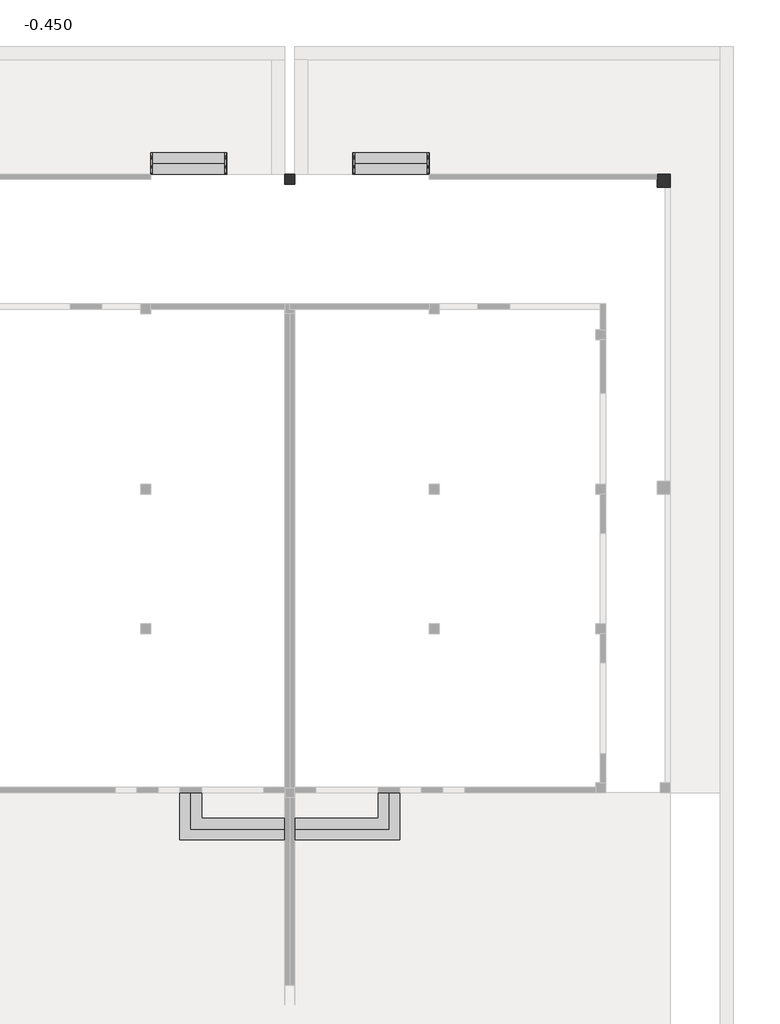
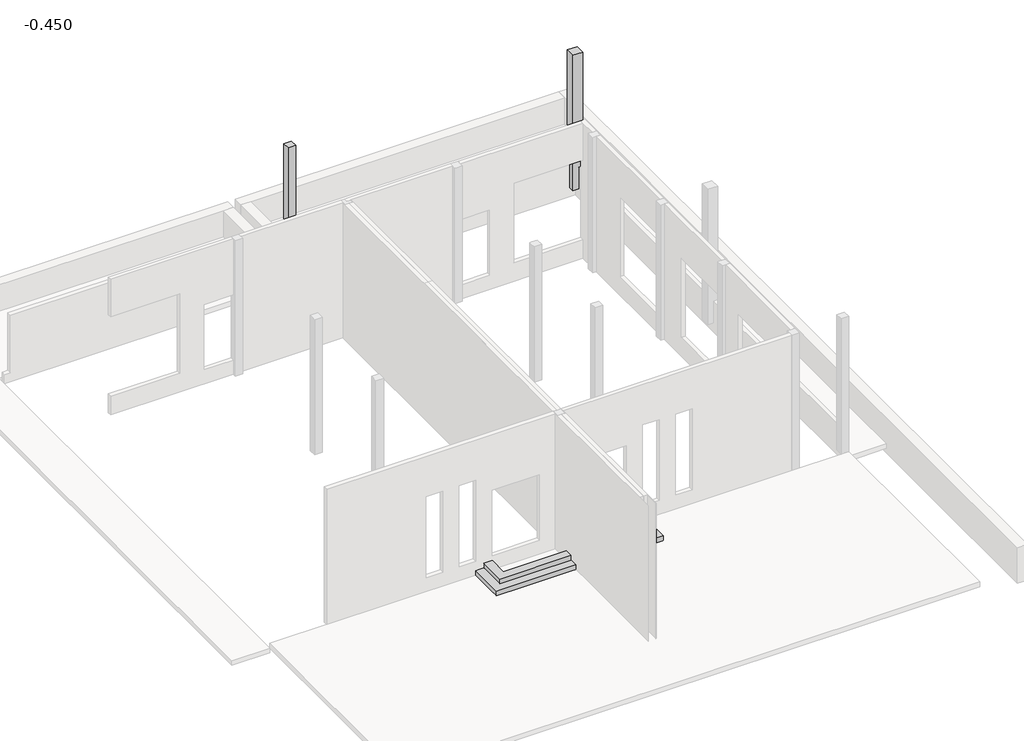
# One storey, part 2 of 2: 4 railings, 2 columns, 2 proxies, 2 stair flights.
"""IFC4 building model written with IfcOpenShell, lengths in millimetres."""

from ifc_helpers import new_model, si_unit, frame, origin, place, context, project, spatial, circle_curve, ellipse_curve, faceted_brep, transform, mapped, element, save
from ifc_brep_helpers import plane_surface, cylinder_surface, advanced_brep
from components import generic_models_7f620453, generic_models_ae96d947

model = new_model("IFC4")

# Units and contexts
model_context = context("Model", 3, world=origin())
ifc_project = project(units=[si_unit("LENGTHUNIT", "METRE", prefix="MILLI")], contexts=[model_context])

# Site, building, storey
site = spatial("IfcSite", under=ifc_project)
building = spatial("IfcBuilding", under=site)
storey = spatial("IfcBuildingStorey", under=building, Name="-0.450", Elevation=-450.0)

# Proxies
placement = place(None, origin())
generic_models_shape = generic_models_7f620453(model_context)
element("IfcBuildingElementProxy", 1, Name="台阶 : 台阶", ObjectType="台阶 : 台阶", at=placement, inside=storey, context=model_context, shape_type="MappedRepresentation", body=[
    mapped(generic_models_shape, transform((0.0, 0.0, 0.0), x_axis=(1.0, 0.0, 0.0), y_axis=(0.0, 1.0, 0.0), z_axis=(0.0, 0.0, 1.0))),
])
generic_models_2_shape = generic_models_ae96d947(model_context)
element("IfcBuildingElementProxy", 2, Name="台阶1 : 台阶", ObjectType="台阶1 : 台阶", at=placement, inside=storey, context=model_context, shape_type="MappedRepresentation", body=[
    mapped(generic_models_2_shape, transform((0.0, 0.0, 0.0), x_axis=(1.0, 0.0, 0.0), y_axis=(0.0, 1.0, 0.0), z_axis=(0.0, 0.0, 1.0))),
])

# Columns
element("IfcColumn", 3, ObjectType="混凝土 - 矩形 - 柱 : Z1", at=placement, inside=storey, context=model_context, shape_type="Brep", body=[
    faceted_brep([(9615.9706096, 16288.7732284, -450.0), (9795.9706096, 16288.7732284, -450.0), (9915.9706096, 16288.7732284, -450.0), (9915.9706096, 15988.7732284, -450.0), (9795.9706096, 15988.7732284, -450.0), (9615.9706096, 15988.7732284, -450.0), (9615.9706096, 16168.7732284, -450.0), (9615.9706096, 16288.7732284, 3900.0), (9615.9706096, 16288.7732284, 1400.0), (9615.9706096, 15988.7732284, 3900.0), (9915.9706096, 15988.7732284, 250.0), (9915.9706096, 15988.7732284, 3900.0), (9915.9706096, 16288.7732284, 3900.0)], [[[0, 1, 2, 3, 4, 5, 6]], [[7, 8, 0, 6, 5, 9]], [[9, 5, 4, 3, 10, 11]], [[11, 10, 3, 2, 12]], [[12, 2, 1, 0, 8, 7]], [[7, 9, 11, 12]]]),
])
element("IfcColumn", 4, ObjectType="混凝土 - 矩形 - 柱 : Z2", at=placement, inside=storey, context=model_context, shape_type="Brep", body=[
    faceted_brep([(1230.9706096, 16288.7732284, -450.0), (1230.9706096, 16058.7732284, -450.0), (1000.9706096, 16058.7732284, -450.0), (1000.9706096, 16288.7732284, -450.0), (1230.9706096, 16288.7732284, 3900.0), (1230.9706096, 16058.7732284, 3900.0), (1230.9706096, 16058.7732284, 0.0), (1230.9706096, 16288.7732284, 0.0), (1230.9706096, 16288.7732284, 3150.0), (1110.9706096, 16058.7732284, 3900.0), (1000.9706096, 16058.7732284, 3900.0), (1000.9706096, 16288.7732284, 3900.0)], [[[0, 1, 2, 3]], [[4, 5, 6, 1, 0, 7, 8]], [[5, 9, 10, 2, 1, 6]], [[10, 11, 3, 2]], [[11, 4, 8, 7, 0, 3]], [[4, 11, 10, 9, 5]]]),
])

# Railings
element("IfcRailing", 5, ObjectType="900mm 圆管", at=placement, inside=storey, context=model_context, shape_type="AdvancedBrep", body=[
    advanced_brep(
    [(-2098.6293904, 16783.7732284, 648.0927519), (-2058.6293904, 16783.7732284, 648.0927519), (-2098.6293904, 16283.7732284, 1098.0927519), (-2058.6293904, 16283.7732284, 1098.0927519)],
    [
        (0, 1, ellipse_curve(frame((-2078.6293904, 16783.7732284, 648.0927519), z_axis=(0.0, 1.0, 0.0), x_axis=(0.0, 0.0, -1.0)), 26.9072481, 20.0)),
        (1, 0, ellipse_curve(frame((-2078.6293904, 16783.7732284, 648.0927519), z_axis=(0.0, 1.0, 0.0), x_axis=(0.0, 0.0, -1.0)), 26.9072481, 20.0)),
        (2, 3, ellipse_curve(frame((-2078.6293904, 16283.7732284, 1098.0927519), z_axis=(0.0, -1.0, 0.0), x_axis=(0.0, 0.0, -1.0)), 26.9072481, 20.0)),
        (3, 2, ellipse_curve(frame((-2078.6293904, 16283.7732284, 1098.0927519), z_axis=(0.0, -1.0, 0.0), x_axis=(0.0, 0.0, -1.0)), 26.9072481, 20.0)),
        (0, 2),
        (3, 1),
    ],
    [
        plane_surface(frame((-2078.6293904, 16783.7732284, 675.0), z_axis=(0.0, 1.0, 0.0), x_axis=(0.0, 0.0, -1.0))),
        plane_surface(frame((-2078.6293904, 16283.7732284, 1125.0), z_axis=(0.0, -1.0, 0.0), x_axis=(0.0, 0.0, -1.0))),
        cylinder_surface(frame((-2078.6293904, 16770.3939338, 660.1341171), z_axis=(0.0, 0.7432941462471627, -0.6689647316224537), x_axis=(1.0, 0.0, 0.0)), 20.0),
    ],
    [
        (0, [[1, 2]]),
        (1, [[3, 4]]),
        (2, [[-1, 5, -4, 6]]),
        (2, [[-2, -6, -3, -5]]),
    ],
),
    advanced_brep(
    [(-2063.6293904, 16783.7732284, 454.8195639), (-2093.6293904, 16783.7732284, 454.8195639), (-2063.6293904, 16283.7732284, 904.8195639), (-2093.6293904, 16283.7732284, 904.8195639)],
    [
        (0, 1, ellipse_curve(frame((-2078.6293904, 16783.7732284, 454.8195639), z_axis=(0.0, 1.0, 0.0), x_axis=(0.0, 0.0, -1.0)), 20.1804361, 15.0)),
        (1, 0, ellipse_curve(frame((-2078.6293904, 16783.7732284, 454.8195639), z_axis=(0.0, 1.0, 0.0), x_axis=(0.0, 0.0, -1.0)), 20.1804361, 15.0)),
        (2, 3, ellipse_curve(frame((-2078.6293904, 16283.7732284, 904.8195639), z_axis=(0.0, -1.0, 0.0), x_axis=(0.0, 0.0, -1.0)), 20.1804361, 15.0)),
        (3, 2, ellipse_curve(frame((-2078.6293904, 16283.7732284, 904.8195639), z_axis=(0.0, -1.0, 0.0), x_axis=(0.0, 0.0, -1.0)), 20.1804361, 15.0)),
        (0, 2),
        (3, 1),
    ],
    [
        plane_surface(frame((-2078.6293904, 16783.7732284, 475.0), z_axis=(0.0, 1.0, 0.0), x_axis=(0.0, 0.0, -1.0))),
        plane_surface(frame((-2078.6293904, 16283.7732284, 925.0), z_axis=(0.0, -1.0, 0.0), x_axis=(0.0, 0.0, -1.0))),
        cylinder_surface(frame((-2078.6293904, 16773.7387575, 463.8505878), z_axis=(0.0, 0.7432941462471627, -0.6689647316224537), x_axis=(-1.0, 0.0, 0.0)), 15.0),
    ],
    [
        (0, [[1, 2]]),
        (1, [[3, 4]]),
        (2, [[-1, 5, -4, 6]]),
        (2, [[-2, -6, -3, -5]]),
    ],
),
    advanced_brep(
    [(-2063.6293904, 16783.7732284, 254.8195639), (-2093.6293904, 16783.7732284, 254.8195639), (-2063.6293904, 16283.7732284, 704.8195639), (-2093.6293904, 16283.7732284, 704.8195639)],
    [
        (0, 1, ellipse_curve(frame((-2078.6293904, 16783.7732284, 254.8195639), z_axis=(0.0, 1.0, 0.0), x_axis=(0.0, 0.0, -1.0)), 20.1804361, 15.0)),
        (1, 0, ellipse_curve(frame((-2078.6293904, 16783.7732284, 254.8195639), z_axis=(0.0, 1.0, 0.0), x_axis=(0.0, 0.0, -1.0)), 20.1804361, 15.0)),
        (2, 3, ellipse_curve(frame((-2078.6293904, 16283.7732284, 704.8195639), z_axis=(0.0, -1.0, 0.0), x_axis=(0.0, 0.0, -1.0)), 20.1804361, 15.0)),
        (3, 2, ellipse_curve(frame((-2078.6293904, 16283.7732284, 704.8195639), z_axis=(0.0, -1.0, 0.0), x_axis=(0.0, 0.0, -1.0)), 20.1804361, 15.0)),
        (0, 2),
        (3, 1),
    ],
    [
        plane_surface(frame((-2078.6293904, 16783.7732284, 275.0), z_axis=(0.0, 1.0, 0.0), x_axis=(0.0, 0.0, -1.0))),
        plane_surface(frame((-2078.6293904, 16283.7732284, 725.0), z_axis=(0.0, -1.0, 0.0), x_axis=(0.0, 0.0, -1.0))),
        cylinder_surface(frame((-2078.6293904, 16773.7387575, 263.8505878), z_axis=(0.0, 0.7432941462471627, -0.6689647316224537), x_axis=(-1.0, 0.0, 0.0)), 15.0),
    ],
    [
        (0, [[1, 2]]),
        (1, [[3, 4]]),
        (2, [[-1, 5, -4, 6]]),
        (2, [[-2, -6, -3, -5]]),
    ],
),
    advanced_brep(
    [(-2063.6293904, 16783.7732284, 54.8195639), (-2093.6293904, 16783.7732284, 54.8195639), (-2063.6293904, 16283.7732284, 504.8195639), (-2093.6293904, 16283.7732284, 504.8195639)],
    [
        (0, 1, ellipse_curve(frame((-2078.6293904, 16783.7732284, 54.8195639), z_axis=(0.0, 1.0, 0.0), x_axis=(0.0, 0.0, -1.0)), 20.1804361, 15.0)),
        (1, 0, ellipse_curve(frame((-2078.6293904, 16783.7732284, 54.8195639), z_axis=(0.0, 1.0, 0.0), x_axis=(0.0, 0.0, -1.0)), 20.1804361, 15.0)),
        (2, 3, ellipse_curve(frame((-2078.6293904, 16283.7732284, 504.8195639), z_axis=(0.0, -1.0, 0.0), x_axis=(0.0, 0.0, -1.0)), 20.1804361, 15.0)),
        (3, 2, ellipse_curve(frame((-2078.6293904, 16283.7732284, 504.8195639), z_axis=(0.0, -1.0, 0.0), x_axis=(0.0, 0.0, -1.0)), 20.1804361, 15.0)),
        (0, 2),
        (3, 1),
    ],
    [
        plane_surface(frame((-2078.6293904, 16783.7732284, 75.0), z_axis=(0.0, 1.0, 0.0), x_axis=(0.0, 0.0, -1.0))),
        plane_surface(frame((-2078.6293904, 16283.7732284, 525.0), z_axis=(0.0, -1.0, 0.0), x_axis=(0.0, 0.0, -1.0))),
        cylinder_surface(frame((-2078.6293904, 16773.7387575, 63.8505878), z_axis=(0.0, 0.7432941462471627, -0.6689647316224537), x_axis=(-1.0, 0.0, 0.0)), 15.0),
    ],
    [
        (0, [[1, 2]]),
        (1, [[3, 4]]),
        (2, [[-1, 5, -4, 6]]),
        (2, [[-2, -6, -3, -5]]),
    ],
),
    advanced_brep(
    [(-2063.6293904, 16783.7732284, -145.1804361), (-2093.6293904, 16783.7732284, -145.1804361), (-2063.6293904, 16283.7732284, 304.8195639), (-2093.6293904, 16283.7732284, 304.8195639)],
    [
        (0, 1, ellipse_curve(frame((-2078.6293904, 16783.7732284, -145.1804361), z_axis=(0.0, 1.0, 0.0), x_axis=(0.0, 0.0, -1.0)), 20.1804361, 15.0)),
        (1, 0, ellipse_curve(frame((-2078.6293904, 16783.7732284, -145.1804361), z_axis=(0.0, 1.0, 0.0), x_axis=(0.0, 0.0, -1.0)), 20.1804361, 15.0)),
        (2, 3, ellipse_curve(frame((-2078.6293904, 16283.7732284, 304.8195639), z_axis=(0.0, -1.0, 0.0), x_axis=(0.0, 0.0, -1.0)), 20.1804361, 15.0)),
        (3, 2, ellipse_curve(frame((-2078.6293904, 16283.7732284, 304.8195639), z_axis=(0.0, -1.0, 0.0), x_axis=(0.0, 0.0, -1.0)), 20.1804361, 15.0)),
        (0, 2),
        (3, 1),
    ],
    [
        plane_surface(frame((-2078.6293904, 16783.7732284, -125.0), z_axis=(0.0, 1.0, 0.0), x_axis=(0.0, 0.0, -1.0))),
        plane_surface(frame((-2078.6293904, 16283.7732284, 325.0), z_axis=(0.0, -1.0, 0.0), x_axis=(0.0, 0.0, -1.0))),
        cylinder_surface(frame((-2078.6293904, 16773.7387575, -136.1494122), z_axis=(0.0, 0.7432941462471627, -0.6689647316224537), x_axis=(-1.0, 0.0, 0.0)), 15.0),
    ],
    [
        (0, [[1, 2]]),
        (1, [[3, 4]]),
        (2, [[-1, 5, -4, 6]]),
        (2, [[-2, -6, -3, -5]]),
    ],
),
    advanced_brep(
    [(-2091.1293904, 16296.2732284, 1059.9355038), (-2091.1293904, 16296.2732284, 0.0), (-2066.1293904, 16296.2732284, 0.0), (-2066.1293904, 16296.2732284, 1059.9355038)],
    [
        (0, 1),
        (1, 2, circle_curve(frame((-2078.6293904, 16296.2732284, 0.0), z_axis=(0.0, 0.0, 1.0), x_axis=(1.0, 0.0, 0.0)), 12.5)),
        (2, 3),
        (3, 0, ellipse_curve(frame((-2078.6293904, 16296.2732284, 1059.9355038), z_axis=(0.0, -0.6689647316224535, -0.743294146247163), x_axis=(0.0, -0.7432941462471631, 0.6689647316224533)), 16.8170301, 12.5)),
        (0, 3, ellipse_curve(frame((-2078.6293904, 16296.2732284, 1059.9355038), z_axis=(0.0, -0.6689647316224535, -0.743294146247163), x_axis=(0.0, -0.7432941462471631, 0.6689647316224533)), 16.8170301, 12.5)),
        (2, 1, circle_curve(frame((-2078.6293904, 16296.2732284, 0.0), z_axis=(0.0, 0.0, 1.0), x_axis=(1.0, 0.0, 0.0)), 12.5)),
    ],
    [
        cylinder_surface(frame((-2078.6293904, 16296.2732284, -100.0), z_axis=(0.0, 0.0, 1.0), x_axis=(1.0, 0.0, 0.0)), 12.5),
        plane_surface(frame((-2053.6293904, 16271.2732284, 1082.4355038), z_axis=(0.0, 0.6689647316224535, 0.743294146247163), x_axis=(-1.0, 0.0, 0.0))),
        plane_surface(frame((-2053.6293904, 16321.2732284, 0.0), z_axis=(0.0, 0.0, -1.0), x_axis=(-1.0, 0.0, 0.0))),
    ],
    [
        (0, [[1, 2, 3, 4]]),
        (0, [[-1, 5, -3, 6]]),
        (1, [[-4, -5]]),
        (2, [[-2, -6]]),
    ],
),
    advanced_brep(
    [(-2091.1293904, 16771.2732284, 632.4355038), (-2091.1293904, 16771.2732284, -225.0), (-2066.1293904, 16771.2732284, -225.0), (-2066.1293904, 16771.2732284, 632.4355038)],
    [
        (0, 1),
        (1, 2, circle_curve(frame((-2078.6293904, 16771.2732284, -225.0), z_axis=(0.0, 0.0, 1.0), x_axis=(1.0, 0.0, 0.0)), 12.5)),
        (2, 3),
        (3, 0, ellipse_curve(frame((-2078.6293904, 16771.2732284, 632.4355038), z_axis=(0.0, -0.6689647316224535, -0.743294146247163), x_axis=(0.0, -0.7432941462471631, 0.6689647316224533)), 16.8170301, 12.5)),
        (0, 3, ellipse_curve(frame((-2078.6293904, 16771.2732284, 632.4355038), z_axis=(0.0, -0.6689647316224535, -0.743294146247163), x_axis=(0.0, -0.7432941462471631, 0.6689647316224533)), 16.8170301, 12.5)),
        (2, 1, circle_curve(frame((-2078.6293904, 16771.2732284, -225.0), z_axis=(0.0, 0.0, 1.0), x_axis=(1.0, 0.0, 0.0)), 12.5)),
    ],
    [
        cylinder_surface(frame((-2078.6293904, 16771.2732284, -325.0), z_axis=(0.0, 0.0, 1.0), x_axis=(1.0, 0.0, 0.0)), 12.5),
        plane_surface(frame((-2053.6293904, 16746.2732284, 654.9355038), z_axis=(0.0, 0.6689647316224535, 0.743294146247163), x_axis=(-1.0, 0.0, 0.0))),
        plane_surface(frame((-2053.6293904, 16796.2732284, -225.0), z_axis=(0.0, 0.0, -1.0), x_axis=(-1.0, 0.0, 0.0))),
    ],
    [
        (0, [[1, 2, 3, 4]]),
        (0, [[-1, 5, -3, 6]]),
        (1, [[-4, -5]]),
        (2, [[-2, -6]]),
    ],
),
])
element("IfcRailing", 6, ObjectType="900mm 圆管", at=placement, inside=storey, context=model_context, shape_type="AdvancedBrep", body=[
    advanced_brep(
    [(-389.4293904, 16783.7732284, 648.0927519), (-349.4293904, 16783.7732284, 648.0927519), (-389.4293904, 16283.7732284, 1098.0927519), (-349.4293904, 16283.7732284, 1098.0927519)],
    [
        (0, 1, ellipse_curve(frame((-369.4293904, 16783.7732284, 648.0927519), z_axis=(0.0, 1.0, 0.0), x_axis=(0.0, 0.0, -1.0)), 26.9072481, 20.0)),
        (1, 0, ellipse_curve(frame((-369.4293904, 16783.7732284, 648.0927519), z_axis=(0.0, 1.0, 0.0), x_axis=(0.0, 0.0, -1.0)), 26.9072481, 20.0)),
        (2, 3, ellipse_curve(frame((-369.4293904, 16283.7732284, 1098.0927519), z_axis=(0.0, -1.0, 0.0), x_axis=(0.0, 0.0, -1.0)), 26.9072481, 20.0)),
        (3, 2, ellipse_curve(frame((-369.4293904, 16283.7732284, 1098.0927519), z_axis=(0.0, -1.0, 0.0), x_axis=(0.0, 0.0, -1.0)), 26.9072481, 20.0)),
        (0, 2),
        (3, 1),
    ],
    [
        plane_surface(frame((-369.4293904, 16783.7732284, 675.0), z_axis=(0.0, 1.0, 0.0), x_axis=(0.0, 0.0, -1.0))),
        plane_surface(frame((-369.4293904, 16283.7732284, 1125.0), z_axis=(0.0, -1.0, 0.0), x_axis=(0.0, 0.0, -1.0))),
        cylinder_surface(frame((-369.4293904, 16770.3939338, 660.1341171), z_axis=(0.0, 0.7432941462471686, -0.6689647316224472), x_axis=(1.0, 0.0, 0.0)), 20.0),
    ],
    [
        (0, [[1, 2]]),
        (1, [[3, 4]]),
        (2, [[-1, 5, -4, 6]]),
        (2, [[-2, -6, -3, -5]]),
    ],
),
    advanced_brep(
    [(-384.4293904, 16783.7732284, 454.8195639), (-354.4293904, 16783.7732284, 454.8195639), (-384.4293904, 16283.7732284, 904.8195639), (-354.4293904, 16283.7732284, 904.8195639)],
    [
        (0, 1, ellipse_curve(frame((-369.4293904, 16783.7732284, 454.8195639), z_axis=(0.0, 1.0, 0.0), x_axis=(0.0, 0.0, -1.0)), 20.1804361, 15.0)),
        (1, 0, ellipse_curve(frame((-369.4293904, 16783.7732284, 454.8195639), z_axis=(0.0, 1.0, 0.0), x_axis=(0.0, 0.0, -1.0)), 20.1804361, 15.0)),
        (2, 3, ellipse_curve(frame((-369.4293904, 16283.7732284, 904.8195639), z_axis=(0.0, -1.0, 0.0), x_axis=(0.0, 0.0, -1.0)), 20.1804361, 15.0)),
        (3, 2, ellipse_curve(frame((-369.4293904, 16283.7732284, 904.8195639), z_axis=(0.0, -1.0, 0.0), x_axis=(0.0, 0.0, -1.0)), 20.1804361, 15.0)),
        (0, 2),
        (3, 1),
    ],
    [
        plane_surface(frame((-369.4293904, 16783.7732284, 475.0), z_axis=(0.0, 1.0, 0.0), x_axis=(0.0, 0.0, -1.0))),
        plane_surface(frame((-369.4293904, 16283.7732284, 925.0), z_axis=(0.0, -1.0, 0.0), x_axis=(0.0, 0.0, -1.0))),
        cylinder_surface(frame((-369.4293904, 16773.7387575, 463.8505878), z_axis=(0.0, 0.7432941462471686, -0.6689647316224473), x_axis=(1.0, 0.0, 0.0)), 15.0),
    ],
    [
        (0, [[1, 2]]),
        (1, [[3, 4]]),
        (2, [[-1, 5, -4, 6]]),
        (2, [[-2, -6, -3, -5]]),
    ],
),
    advanced_brep(
    [(-384.4293904, 16783.7732284, 254.8195639), (-354.4293904, 16783.7732284, 254.8195639), (-384.4293904, 16283.7732284, 704.8195639), (-354.4293904, 16283.7732284, 704.8195639)],
    [
        (0, 1, ellipse_curve(frame((-369.4293904, 16783.7732284, 254.8195639), z_axis=(0.0, 1.0, 0.0), x_axis=(0.0, 0.0, -1.0)), 20.1804361, 15.0)),
        (1, 0, ellipse_curve(frame((-369.4293904, 16783.7732284, 254.8195639), z_axis=(0.0, 1.0, 0.0), x_axis=(0.0, 0.0, -1.0)), 20.1804361, 15.0)),
        (2, 3, ellipse_curve(frame((-369.4293904, 16283.7732284, 704.8195639), z_axis=(0.0, -1.0, 0.0), x_axis=(0.0, 0.0, -1.0)), 20.1804361, 15.0)),
        (3, 2, ellipse_curve(frame((-369.4293904, 16283.7732284, 704.8195639), z_axis=(0.0, -1.0, 0.0), x_axis=(0.0, 0.0, -1.0)), 20.1804361, 15.0)),
        (0, 2),
        (3, 1),
    ],
    [
        plane_surface(frame((-369.4293904, 16783.7732284, 275.0), z_axis=(0.0, 1.0, 0.0), x_axis=(0.0, 0.0, -1.0))),
        plane_surface(frame((-369.4293904, 16283.7732284, 725.0), z_axis=(0.0, -1.0, 0.0), x_axis=(0.0, 0.0, -1.0))),
        cylinder_surface(frame((-369.4293904, 16773.7387575, 263.8505878), z_axis=(0.0, 0.7432941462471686, -0.6689647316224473), x_axis=(1.0, 0.0, 0.0)), 15.0),
    ],
    [
        (0, [[1, 2]]),
        (1, [[3, 4]]),
        (2, [[-1, 5, -4, 6]]),
        (2, [[-2, -6, -3, -5]]),
    ],
),
    advanced_brep(
    [(-384.4293904, 16783.7732284, 54.8195639), (-354.4293904, 16783.7732284, 54.8195639), (-384.4293904, 16283.7732284, 504.8195639), (-354.4293904, 16283.7732284, 504.8195639)],
    [
        (0, 1, ellipse_curve(frame((-369.4293904, 16783.7732284, 54.8195639), z_axis=(0.0, 1.0, 0.0), x_axis=(0.0, 0.0, -1.0)), 20.1804361, 15.0)),
        (1, 0, ellipse_curve(frame((-369.4293904, 16783.7732284, 54.8195639), z_axis=(0.0, 1.0, 0.0), x_axis=(0.0, 0.0, -1.0)), 20.1804361, 15.0)),
        (2, 3, ellipse_curve(frame((-369.4293904, 16283.7732284, 504.8195639), z_axis=(0.0, -1.0, 0.0), x_axis=(0.0, 0.0, -1.0)), 20.1804361, 15.0)),
        (3, 2, ellipse_curve(frame((-369.4293904, 16283.7732284, 504.8195639), z_axis=(0.0, -1.0, 0.0), x_axis=(0.0, 0.0, -1.0)), 20.1804361, 15.0)),
        (0, 2),
        (3, 1),
    ],
    [
        plane_surface(frame((-369.4293904, 16783.7732284, 75.0), z_axis=(0.0, 1.0, 0.0), x_axis=(0.0, 0.0, -1.0))),
        plane_surface(frame((-369.4293904, 16283.7732284, 525.0), z_axis=(0.0, -1.0, 0.0), x_axis=(0.0, 0.0, -1.0))),
        cylinder_surface(frame((-369.4293904, 16773.7387575, 63.8505878), z_axis=(0.0, 0.7432941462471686, -0.6689647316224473), x_axis=(1.0, 0.0, 0.0)), 15.0),
    ],
    [
        (0, [[1, 2]]),
        (1, [[3, 4]]),
        (2, [[-1, 5, -4, 6]]),
        (2, [[-2, -6, -3, -5]]),
    ],
),
    advanced_brep(
    [(-384.4293904, 16783.7732284, -145.1804361), (-354.4293904, 16783.7732284, -145.1804361), (-384.4293904, 16283.7732284, 304.8195639), (-354.4293904, 16283.7732284, 304.8195639)],
    [
        (0, 1, ellipse_curve(frame((-369.4293904, 16783.7732284, -145.1804361), z_axis=(0.0, 1.0, 0.0), x_axis=(0.0, 0.0, -1.0)), 20.1804361, 15.0)),
        (1, 0, ellipse_curve(frame((-369.4293904, 16783.7732284, -145.1804361), z_axis=(0.0, 1.0, 0.0), x_axis=(0.0, 0.0, -1.0)), 20.1804361, 15.0)),
        (2, 3, ellipse_curve(frame((-369.4293904, 16283.7732284, 304.8195639), z_axis=(0.0, -1.0, 0.0), x_axis=(0.0, 0.0, -1.0)), 20.1804361, 15.0)),
        (3, 2, ellipse_curve(frame((-369.4293904, 16283.7732284, 304.8195639), z_axis=(0.0, -1.0, 0.0), x_axis=(0.0, 0.0, -1.0)), 20.1804361, 15.0)),
        (0, 2),
        (3, 1),
    ],
    [
        plane_surface(frame((-369.4293904, 16783.7732284, -125.0), z_axis=(0.0, 1.0, 0.0), x_axis=(0.0, 0.0, -1.0))),
        plane_surface(frame((-369.4293904, 16283.7732284, 325.0), z_axis=(0.0, -1.0, 0.0), x_axis=(0.0, 0.0, -1.0))),
        cylinder_surface(frame((-369.4293904, 16773.7387575, -136.1494122), z_axis=(0.0, 0.7432941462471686, -0.6689647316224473), x_axis=(1.0, 0.0, 0.0)), 15.0),
    ],
    [
        (0, [[1, 2]]),
        (1, [[3, 4]]),
        (2, [[-1, 5, -4, 6]]),
        (2, [[-2, -6, -3, -5]]),
    ],
),
    advanced_brep(
    [(-356.9293904, 16296.2732284, 1059.9355038), (-381.9293904, 16296.2732284, 1059.9355038), (-381.9293904, 16296.2732284, 0.0), (-356.9293904, 16296.2732284, 0.0)],
    [
        (0, 1, ellipse_curve(frame((-369.4293904, 16296.2732284, 1059.9355038), z_axis=(0.0, -0.6689647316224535, -0.743294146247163), x_axis=(0.0, -0.7432941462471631, 0.6689647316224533)), 16.8170301, 12.5)),
        (1, 2),
        (2, 3, circle_curve(frame((-369.4293904, 16296.2732284, 0.0), z_axis=(0.0, 0.0, 1.0), x_axis=(-1.0, 0.0, 0.0)), 12.5)),
        (3, 0),
        (3, 2, circle_curve(frame((-369.4293904, 16296.2732284, 0.0), z_axis=(0.0, 0.0, 1.0), x_axis=(-1.0, 0.0, 0.0)), 12.5)),
        (1, 0, ellipse_curve(frame((-369.4293904, 16296.2732284, 1059.9355038), z_axis=(0.0, -0.6689647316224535, -0.743294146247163), x_axis=(0.0, -0.7432941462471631, 0.6689647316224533)), 16.8170301, 12.5)),
    ],
    [
        cylinder_surface(frame((-369.4293904, 16296.2732284, -100.0), z_axis=(0.0, 0.0, 1.0), x_axis=(-1.0, 0.0, 0.0)), 12.5),
        plane_surface(frame((-394.4293904, 16271.2732284, 1082.4355038), z_axis=(0.0, 0.6689647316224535, 0.743294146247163), x_axis=(1.0, 0.0, 0.0))),
        plane_surface(frame((-394.4293904, 16321.2732284, 0.0), z_axis=(0.0, 0.0, -1.0), x_axis=(1.0, 0.0, 0.0))),
    ],
    [
        (0, [[1, 2, 3, 4]]),
        (0, [[5, -2, 6, -4]]),
        (1, [[-6, -1]]),
        (2, [[-5, -3]]),
    ],
),
    advanced_brep(
    [(-356.9293904, 16771.2732284, 632.4355038), (-381.9293904, 16771.2732284, 632.4355038), (-381.9293904, 16771.2732284, -225.0), (-356.9293904, 16771.2732284, -225.0)],
    [
        (0, 1, ellipse_curve(frame((-369.4293904, 16771.2732284, 632.4355038), z_axis=(0.0, -0.6689647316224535, -0.743294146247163), x_axis=(0.0, -0.7432941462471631, 0.6689647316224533)), 16.8170301, 12.5)),
        (1, 2),
        (2, 3, circle_curve(frame((-369.4293904, 16771.2732284, -225.0), z_axis=(0.0, 0.0, 1.0), x_axis=(-1.0, 0.0, 0.0)), 12.5)),
        (3, 0),
        (3, 2, circle_curve(frame((-369.4293904, 16771.2732284, -225.0), z_axis=(0.0, 0.0, 1.0), x_axis=(-1.0, 0.0, 0.0)), 12.5)),
        (1, 0, ellipse_curve(frame((-369.4293904, 16771.2732284, 632.4355038), z_axis=(0.0, -0.6689647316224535, -0.743294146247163), x_axis=(0.0, -0.7432941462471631, 0.6689647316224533)), 16.8170301, 12.5)),
    ],
    [
        cylinder_surface(frame((-369.4293904, 16771.2732284, -325.0), z_axis=(0.0, 0.0, 1.0), x_axis=(-1.0, 0.0, 0.0)), 12.5),
        plane_surface(frame((-394.4293904, 16746.2732284, 654.9355038), z_axis=(0.0, 0.6689647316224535, 0.743294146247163), x_axis=(1.0, 0.0, 0.0))),
        plane_surface(frame((-394.4293904, 16796.2732284, -225.0), z_axis=(0.0, 0.0, -1.0), x_axis=(1.0, 0.0, 0.0))),
    ],
    [
        (0, [[1, 2, 3, 4]]),
        (0, [[5, -2, 6, -4]]),
        (1, [[-6, -1]]),
        (2, [[-5, -3]]),
    ],
),
])
element("IfcRailing", 7, ObjectType="900mm 圆管", at=placement, inside=storey, context=model_context, shape_type="AdvancedBrep", body=[
    advanced_brep(
    [(4290.5706096, 16783.7732284, 648.0927519), (4330.5706096, 16783.7732284, 648.0927519), (4290.5706096, 16283.7732284, 1098.0927519), (4330.5706096, 16283.7732284, 1098.0927519)],
    [
        (0, 1, ellipse_curve(frame((4310.5706096, 16783.7732284, 648.0927519), z_axis=(0.0, 1.0, 0.0), x_axis=(0.0, 0.0, -1.0)), 26.9072481, 20.0)),
        (1, 0, ellipse_curve(frame((4310.5706096, 16783.7732284, 648.0927519), z_axis=(0.0, 1.0, 0.0), x_axis=(0.0, 0.0, -1.0)), 26.9072481, 20.0)),
        (2, 3, ellipse_curve(frame((4310.5706096, 16283.7732284, 1098.0927519), z_axis=(0.0, -1.0, 0.0), x_axis=(0.0, 0.0, -1.0)), 26.9072481, 20.0)),
        (3, 2, ellipse_curve(frame((4310.5706096, 16283.7732284, 1098.0927519), z_axis=(0.0, -1.0, 0.0), x_axis=(0.0, 0.0, -1.0)), 26.9072481, 20.0)),
        (0, 2),
        (3, 1),
    ],
    [
        plane_surface(frame((4310.5706096, 16783.7732284, 675.0), z_axis=(0.0, 1.0, 0.0), x_axis=(0.0, 0.0, -1.0))),
        plane_surface(frame((4310.5706096, 16283.7732284, 1125.0), z_axis=(0.0, -1.0, 0.0), x_axis=(0.0, 0.0, -1.0))),
        cylinder_surface(frame((4310.5706096, 16770.3939338, 660.1341171), z_axis=(0.0, 0.7432941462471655, -0.6689647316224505), x_axis=(1.0, 0.0, 0.0)), 20.0),
    ],
    [
        (0, [[1, 2]]),
        (1, [[3, 4]]),
        (2, [[-1, 5, -4, 6]]),
        (2, [[-2, -6, -3, -5]]),
    ],
),
    advanced_brep(
    [(4295.5706096, 16783.7732284, 454.8195639), (4325.5706096, 16783.7732284, 454.8195639), (4295.5706096, 16283.7732284, 904.8195639), (4325.5706096, 16283.7732284, 904.8195639)],
    [
        (0, 1, ellipse_curve(frame((4310.5706096, 16783.7732284, 454.8195639), z_axis=(0.0, 1.0, 0.0), x_axis=(0.0, 0.0, -1.0)), 20.1804361, 15.0)),
        (1, 0, ellipse_curve(frame((4310.5706096, 16783.7732284, 454.8195639), z_axis=(0.0, 1.0, 0.0), x_axis=(0.0, 0.0, -1.0)), 20.1804361, 15.0)),
        (2, 3, ellipse_curve(frame((4310.5706096, 16283.7732284, 904.8195639), z_axis=(0.0, -1.0, 0.0), x_axis=(0.0, 0.0, -1.0)), 20.1804361, 15.0)),
        (3, 2, ellipse_curve(frame((4310.5706096, 16283.7732284, 904.8195639), z_axis=(0.0, -1.0, 0.0), x_axis=(0.0, 0.0, -1.0)), 20.1804361, 15.0)),
        (1, 3),
        (2, 0),
    ],
    [
        plane_surface(frame((4310.5706096, 16783.7732284, 475.0), z_axis=(0.0, 1.0, 0.0), x_axis=(0.0, 0.0, -1.0))),
        plane_surface(frame((4310.5706096, 16283.7732284, 925.0), z_axis=(0.0, -1.0, 0.0), x_axis=(0.0, 0.0, -1.0))),
        cylinder_surface(frame((4310.5706096, 16773.7387575, 463.8505878), z_axis=(0.0, 0.7432941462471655, -0.6689647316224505), x_axis=(1.0, 0.0, 0.0)), 15.0),
    ],
    [
        (0, [[1, 2]]),
        (1, [[3, 4]]),
        (2, [[-2, 5, -3, 6]]),
        (2, [[-1, -6, -4, -5]]),
    ],
),
    advanced_brep(
    [(4295.5706096, 16783.7732284, 254.8195639), (4325.5706096, 16783.7732284, 254.8195639), (4295.5706096, 16283.7732284, 704.8195639), (4325.5706096, 16283.7732284, 704.8195639)],
    [
        (0, 1, ellipse_curve(frame((4310.5706096, 16783.7732284, 254.8195639), z_axis=(0.0, 1.0, 0.0), x_axis=(0.0, 0.0, -1.0)), 20.1804361, 15.0)),
        (1, 0, ellipse_curve(frame((4310.5706096, 16783.7732284, 254.8195639), z_axis=(0.0, 1.0, 0.0), x_axis=(0.0, 0.0, -1.0)), 20.1804361, 15.0)),
        (2, 3, ellipse_curve(frame((4310.5706096, 16283.7732284, 704.8195639), z_axis=(0.0, -1.0, 0.0), x_axis=(0.0, 0.0, -1.0)), 20.1804361, 15.0)),
        (3, 2, ellipse_curve(frame((4310.5706096, 16283.7732284, 704.8195639), z_axis=(0.0, -1.0, 0.0), x_axis=(0.0, 0.0, -1.0)), 20.1804361, 15.0)),
        (1, 3),
        (2, 0),
    ],
    [
        plane_surface(frame((4310.5706096, 16783.7732284, 275.0), z_axis=(0.0, 1.0, 0.0), x_axis=(0.0, 0.0, -1.0))),
        plane_surface(frame((4310.5706096, 16283.7732284, 725.0), z_axis=(0.0, -1.0, 0.0), x_axis=(0.0, 0.0, -1.0))),
        cylinder_surface(frame((4310.5706096, 16773.7387575, 263.8505878), z_axis=(0.0, 0.7432941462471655, -0.6689647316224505), x_axis=(1.0, 0.0, 0.0)), 15.0),
    ],
    [
        (0, [[1, 2]]),
        (1, [[3, 4]]),
        (2, [[-2, 5, -3, 6]]),
        (2, [[-1, -6, -4, -5]]),
    ],
),
    advanced_brep(
    [(4295.5706096, 16783.7732284, 54.8195639), (4325.5706096, 16783.7732284, 54.8195639), (4295.5706096, 16283.7732284, 504.8195639), (4325.5706096, 16283.7732284, 504.8195639)],
    [
        (0, 1, ellipse_curve(frame((4310.5706096, 16783.7732284, 54.8195639), z_axis=(0.0, 1.0, 0.0), x_axis=(0.0, 0.0, -1.0)), 20.1804361, 15.0)),
        (1, 0, ellipse_curve(frame((4310.5706096, 16783.7732284, 54.8195639), z_axis=(0.0, 1.0, 0.0), x_axis=(0.0, 0.0, -1.0)), 20.1804361, 15.0)),
        (2, 3, ellipse_curve(frame((4310.5706096, 16283.7732284, 504.8195639), z_axis=(0.0, -1.0, 0.0), x_axis=(0.0, 0.0, -1.0)), 20.1804361, 15.0)),
        (3, 2, ellipse_curve(frame((4310.5706096, 16283.7732284, 504.8195639), z_axis=(0.0, -1.0, 0.0), x_axis=(0.0, 0.0, -1.0)), 20.1804361, 15.0)),
        (1, 3),
        (2, 0),
    ],
    [
        plane_surface(frame((4310.5706096, 16783.7732284, 75.0), z_axis=(0.0, 1.0, 0.0), x_axis=(0.0, 0.0, -1.0))),
        plane_surface(frame((4310.5706096, 16283.7732284, 525.0), z_axis=(0.0, -1.0, 0.0), x_axis=(0.0, 0.0, -1.0))),
        cylinder_surface(frame((4310.5706096, 16773.7387575, 63.8505878), z_axis=(0.0, 0.7432941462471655, -0.6689647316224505), x_axis=(1.0, 0.0, 0.0)), 15.0),
    ],
    [
        (0, [[1, 2]]),
        (1, [[3, 4]]),
        (2, [[-2, 5, -3, 6]]),
        (2, [[-1, -6, -4, -5]]),
    ],
),
    advanced_brep(
    [(4295.5706096, 16783.7732284, -145.1804361), (4325.5706096, 16783.7732284, -145.1804361), (4295.5706096, 16283.7732284, 304.8195639), (4325.5706096, 16283.7732284, 304.8195639)],
    [
        (0, 1, ellipse_curve(frame((4310.5706096, 16783.7732284, -145.1804361), z_axis=(0.0, 1.0, 0.0), x_axis=(0.0, 0.0, -1.0)), 20.1804361, 15.0)),
        (1, 0, ellipse_curve(frame((4310.5706096, 16783.7732284, -145.1804361), z_axis=(0.0, 1.0, 0.0), x_axis=(0.0, 0.0, -1.0)), 20.1804361, 15.0)),
        (2, 3, ellipse_curve(frame((4310.5706096, 16283.7732284, 304.8195639), z_axis=(0.0, -1.0, 0.0), x_axis=(0.0, 0.0, -1.0)), 20.1804361, 15.0)),
        (3, 2, ellipse_curve(frame((4310.5706096, 16283.7732284, 304.8195639), z_axis=(0.0, -1.0, 0.0), x_axis=(0.0, 0.0, -1.0)), 20.1804361, 15.0)),
        (1, 3),
        (2, 0),
    ],
    [
        plane_surface(frame((4310.5706096, 16783.7732284, -125.0), z_axis=(0.0, 1.0, 0.0), x_axis=(0.0, 0.0, -1.0))),
        plane_surface(frame((4310.5706096, 16283.7732284, 325.0), z_axis=(0.0, -1.0, 0.0), x_axis=(0.0, 0.0, -1.0))),
        cylinder_surface(frame((4310.5706096, 16773.7387575, -136.1494122), z_axis=(0.0, 0.7432941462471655, -0.6689647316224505), x_axis=(1.0, 0.0, 0.0)), 15.0),
    ],
    [
        (0, [[1, 2]]),
        (1, [[3, 4]]),
        (2, [[-2, 5, -3, 6]]),
        (2, [[-1, -6, -4, -5]]),
    ],
),
    advanced_brep(
    [(4323.0706096, 16296.2732284, 1059.9355038), (4298.0706096, 16296.2732284, 1059.9355038), (4298.0706096, 16296.2732284, 0.0), (4323.0706096, 16296.2732284, 0.0)],
    [
        (0, 1, ellipse_curve(frame((4310.5706096, 16296.2732284, 1059.9355038), z_axis=(0.0, -0.6689647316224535, -0.743294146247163), x_axis=(0.0, -0.7432941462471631, 0.6689647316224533)), 16.8170301, 12.5)),
        (1, 2),
        (2, 3, circle_curve(frame((4310.5706096, 16296.2732284, 0.0), z_axis=(0.0, 0.0, 1.0), x_axis=(-1.0, 0.0, 0.0)), 12.5)),
        (3, 0),
        (3, 2, circle_curve(frame((4310.5706096, 16296.2732284, 0.0), z_axis=(0.0, 0.0, 1.0), x_axis=(-1.0, 0.0, 0.0)), 12.5)),
        (1, 0, ellipse_curve(frame((4310.5706096, 16296.2732284, 1059.9355038), z_axis=(0.0, -0.6689647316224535, -0.743294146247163), x_axis=(0.0, -0.7432941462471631, 0.6689647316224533)), 16.8170301, 12.5)),
    ],
    [
        cylinder_surface(frame((4310.5706096, 16296.2732284, -100.0), z_axis=(0.0, 0.0, 1.0), x_axis=(-1.0, 0.0, 0.0)), 12.5),
        plane_surface(frame((4285.5706096, 16271.2732284, 1082.4355038), z_axis=(0.0, 0.6689647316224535, 0.743294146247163), x_axis=(1.0, 0.0, 0.0))),
        plane_surface(frame((4285.5706096, 16321.2732284, 0.0), z_axis=(0.0, 0.0, -1.0), x_axis=(1.0, 0.0, 0.0))),
    ],
    [
        (0, [[1, 2, 3, 4]]),
        (0, [[5, -2, 6, -4]]),
        (1, [[-6, -1]]),
        (2, [[-5, -3]]),
    ],
),
    advanced_brep(
    [(4323.0706096, 16771.2732284, 632.4355038), (4298.0706096, 16771.2732284, 632.4355038), (4298.0706096, 16771.2732284, -225.0), (4323.0706096, 16771.2732284, -225.0)],
    [
        (0, 1, ellipse_curve(frame((4310.5706096, 16771.2732284, 632.4355038), z_axis=(0.0, -0.6689647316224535, -0.743294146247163), x_axis=(0.0, -0.7432941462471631, 0.6689647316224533)), 16.8170301, 12.5)),
        (1, 2),
        (2, 3, circle_curve(frame((4310.5706096, 16771.2732284, -225.0), z_axis=(0.0, 0.0, 1.0), x_axis=(-1.0, 0.0, 0.0)), 12.5)),
        (3, 0),
        (3, 2, circle_curve(frame((4310.5706096, 16771.2732284, -225.0), z_axis=(0.0, 0.0, 1.0), x_axis=(-1.0, 0.0, 0.0)), 12.5)),
        (1, 0, ellipse_curve(frame((4310.5706096, 16771.2732284, 632.4355038), z_axis=(0.0, -0.6689647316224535, -0.743294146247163), x_axis=(0.0, -0.7432941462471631, 0.6689647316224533)), 16.8170301, 12.5)),
    ],
    [
        cylinder_surface(frame((4310.5706096, 16771.2732284, -325.0), z_axis=(0.0, 0.0, 1.0), x_axis=(-1.0, 0.0, 0.0)), 12.5),
        plane_surface(frame((4285.5706096, 16746.2732284, 654.9355038), z_axis=(0.0, 0.6689647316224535, 0.743294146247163), x_axis=(1.0, 0.0, 0.0))),
        plane_surface(frame((4285.5706096, 16796.2732284, -225.0), z_axis=(0.0, 0.0, -1.0), x_axis=(1.0, 0.0, 0.0))),
    ],
    [
        (0, [[1, 2, 3, 4]]),
        (0, [[5, -2, 6, -4]]),
        (1, [[-6, -1]]),
        (2, [[-5, -3]]),
    ],
),
])
element("IfcRailing", 8, ObjectType="900mm 圆管", at=placement, inside=storey, context=model_context, shape_type="AdvancedBrep", body=[
    advanced_brep(
    [(2581.3706096, 16783.7732284, 648.0927519), (2621.3706096, 16783.7732284, 648.0927519), (2581.3706096, 16283.7732284, 1098.0927519), (2621.3706096, 16283.7732284, 1098.0927519)],
    [
        (0, 1, ellipse_curve(frame((2601.3706096, 16783.7732284, 648.0927519), z_axis=(0.0, 1.0, 0.0), x_axis=(0.0, 0.0, -1.0)), 26.9072481, 20.0)),
        (1, 0, ellipse_curve(frame((2601.3706096, 16783.7732284, 648.0927519), z_axis=(0.0, 1.0, 0.0), x_axis=(0.0, 0.0, -1.0)), 26.9072481, 20.0)),
        (2, 3, ellipse_curve(frame((2601.3706096, 16283.7732284, 1098.0927519), z_axis=(0.0, -1.0, 0.0), x_axis=(0.0, 0.0, -1.0)), 26.9072481, 20.0)),
        (3, 2, ellipse_curve(frame((2601.3706096, 16283.7732284, 1098.0927519), z_axis=(0.0, -1.0, 0.0), x_axis=(0.0, 0.0, -1.0)), 26.9072481, 20.0)),
        (0, 2),
        (3, 1),
    ],
    [
        plane_surface(frame((2601.3706096, 16783.7732284, 675.0), z_axis=(0.0, 1.0, 0.0), x_axis=(0.0, 0.0, -1.0))),
        plane_surface(frame((2601.3706096, 16283.7732284, 1125.0), z_axis=(0.0, -1.0, 0.0), x_axis=(0.0, 0.0, -1.0))),
        cylinder_surface(frame((2601.3706096, 16770.3939338, 660.1341171), z_axis=(0.0, 0.7432941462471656, -0.6689647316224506), x_axis=(1.0, 0.0, 0.0)), 20.0),
    ],
    [
        (0, [[1, 2]]),
        (1, [[3, 4]]),
        (2, [[-1, 5, -4, 6]]),
        (2, [[-2, -6, -3, -5]]),
    ],
),
    advanced_brep(
    [(2616.3706096, 16783.7732284, 454.8195639), (2586.3706096, 16783.7732284, 454.8195639), (2616.3706096, 16283.7732284, 904.8195639), (2586.3706096, 16283.7732284, 904.8195639)],
    [
        (0, 1, ellipse_curve(frame((2601.3706096, 16783.7732284, 454.8195639), z_axis=(0.0, 1.0, 0.0), x_axis=(0.0, 0.0, -1.0)), 20.1804361, 15.0)),
        (1, 0, ellipse_curve(frame((2601.3706096, 16783.7732284, 454.8195639), z_axis=(0.0, 1.0, 0.0), x_axis=(0.0, 0.0, -1.0)), 20.1804361, 15.0)),
        (2, 3, ellipse_curve(frame((2601.3706096, 16283.7732284, 904.8195639), z_axis=(0.0, -1.0, 0.0), x_axis=(0.0, 0.0, -1.0)), 20.1804361, 15.0)),
        (3, 2, ellipse_curve(frame((2601.3706096, 16283.7732284, 904.8195639), z_axis=(0.0, -1.0, 0.0), x_axis=(0.0, 0.0, -1.0)), 20.1804361, 15.0)),
        (1, 3),
        (2, 0),
    ],
    [
        plane_surface(frame((2601.3706096, 16783.7732284, 475.0), z_axis=(0.0, 1.0, 0.0), x_axis=(0.0, 0.0, -1.0))),
        plane_surface(frame((2601.3706096, 16283.7732284, 925.0), z_axis=(0.0, -1.0, 0.0), x_axis=(0.0, 0.0, -1.0))),
        cylinder_surface(frame((2601.3706096, 16773.7387575, 463.8505878), z_axis=(0.0, 0.7432941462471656, -0.6689647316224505), x_axis=(-1.0, 0.0, 0.0)), 15.0),
    ],
    [
        (0, [[1, 2]]),
        (1, [[3, 4]]),
        (2, [[-2, 5, -3, 6]]),
        (2, [[-1, -6, -4, -5]]),
    ],
),
    advanced_brep(
    [(2616.3706096, 16783.7732284, 254.8195639), (2586.3706096, 16783.7732284, 254.8195639), (2616.3706096, 16283.7732284, 704.8195639), (2586.3706096, 16283.7732284, 704.8195639)],
    [
        (0, 1, ellipse_curve(frame((2601.3706096, 16783.7732284, 254.8195639), z_axis=(0.0, 1.0, 0.0), x_axis=(0.0, 0.0, -1.0)), 20.1804361, 15.0)),
        (1, 0, ellipse_curve(frame((2601.3706096, 16783.7732284, 254.8195639), z_axis=(0.0, 1.0, 0.0), x_axis=(0.0, 0.0, -1.0)), 20.1804361, 15.0)),
        (2, 3, ellipse_curve(frame((2601.3706096, 16283.7732284, 704.8195639), z_axis=(0.0, -1.0, 0.0), x_axis=(0.0, 0.0, -1.0)), 20.1804361, 15.0)),
        (3, 2, ellipse_curve(frame((2601.3706096, 16283.7732284, 704.8195639), z_axis=(0.0, -1.0, 0.0), x_axis=(0.0, 0.0, -1.0)), 20.1804361, 15.0)),
        (1, 3),
        (2, 0),
    ],
    [
        plane_surface(frame((2601.3706096, 16783.7732284, 275.0), z_axis=(0.0, 1.0, 0.0), x_axis=(0.0, 0.0, -1.0))),
        plane_surface(frame((2601.3706096, 16283.7732284, 725.0), z_axis=(0.0, -1.0, 0.0), x_axis=(0.0, 0.0, -1.0))),
        cylinder_surface(frame((2601.3706096, 16773.7387575, 263.8505878), z_axis=(0.0, 0.7432941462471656, -0.6689647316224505), x_axis=(-1.0, 0.0, 0.0)), 15.0),
    ],
    [
        (0, [[1, 2]]),
        (1, [[3, 4]]),
        (2, [[-2, 5, -3, 6]]),
        (2, [[-1, -6, -4, -5]]),
    ],
),
    advanced_brep(
    [(2616.3706096, 16783.7732284, 54.8195639), (2586.3706096, 16783.7732284, 54.8195639), (2616.3706096, 16283.7732284, 504.8195639), (2586.3706096, 16283.7732284, 504.8195639)],
    [
        (0, 1, ellipse_curve(frame((2601.3706096, 16783.7732284, 54.8195639), z_axis=(0.0, 1.0, 0.0), x_axis=(0.0, 0.0, -1.0)), 20.1804361, 15.0)),
        (1, 0, ellipse_curve(frame((2601.3706096, 16783.7732284, 54.8195639), z_axis=(0.0, 1.0, 0.0), x_axis=(0.0, 0.0, -1.0)), 20.1804361, 15.0)),
        (2, 3, ellipse_curve(frame((2601.3706096, 16283.7732284, 504.8195639), z_axis=(0.0, -1.0, 0.0), x_axis=(0.0, 0.0, -1.0)), 20.1804361, 15.0)),
        (3, 2, ellipse_curve(frame((2601.3706096, 16283.7732284, 504.8195639), z_axis=(0.0, -1.0, 0.0), x_axis=(0.0, 0.0, -1.0)), 20.1804361, 15.0)),
        (1, 3),
        (2, 0),
    ],
    [
        plane_surface(frame((2601.3706096, 16783.7732284, 75.0), z_axis=(0.0, 1.0, 0.0), x_axis=(0.0, 0.0, -1.0))),
        plane_surface(frame((2601.3706096, 16283.7732284, 525.0), z_axis=(0.0, -1.0, 0.0), x_axis=(0.0, 0.0, -1.0))),
        cylinder_surface(frame((2601.3706096, 16773.7387575, 63.8505878), z_axis=(0.0, 0.7432941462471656, -0.6689647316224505), x_axis=(-1.0, 0.0, 0.0)), 15.0),
    ],
    [
        (0, [[1, 2]]),
        (1, [[3, 4]]),
        (2, [[-2, 5, -3, 6]]),
        (2, [[-1, -6, -4, -5]]),
    ],
),
    advanced_brep(
    [(2616.3706096, 16783.7732284, -145.1804361), (2586.3706096, 16783.7732284, -145.1804361), (2616.3706096, 16283.7732284, 304.8195639), (2586.3706096, 16283.7732284, 304.8195639)],
    [
        (0, 1, ellipse_curve(frame((2601.3706096, 16783.7732284, -145.1804361), z_axis=(0.0, 1.0, 0.0), x_axis=(0.0, 0.0, -1.0)), 20.1804361, 15.0)),
        (1, 0, ellipse_curve(frame((2601.3706096, 16783.7732284, -145.1804361), z_axis=(0.0, 1.0, 0.0), x_axis=(0.0, 0.0, -1.0)), 20.1804361, 15.0)),
        (2, 3, ellipse_curve(frame((2601.3706096, 16283.7732284, 304.8195639), z_axis=(0.0, -1.0, 0.0), x_axis=(0.0, 0.0, -1.0)), 20.1804361, 15.0)),
        (3, 2, ellipse_curve(frame((2601.3706096, 16283.7732284, 304.8195639), z_axis=(0.0, -1.0, 0.0), x_axis=(0.0, 0.0, -1.0)), 20.1804361, 15.0)),
        (1, 3),
        (2, 0),
    ],
    [
        plane_surface(frame((2601.3706096, 16783.7732284, -125.0), z_axis=(0.0, 1.0, 0.0), x_axis=(0.0, 0.0, -1.0))),
        plane_surface(frame((2601.3706096, 16283.7732284, 325.0), z_axis=(0.0, -1.0, 0.0), x_axis=(0.0, 0.0, -1.0))),
        cylinder_surface(frame((2601.3706096, 16773.7387575, -136.1494122), z_axis=(0.0, 0.7432941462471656, -0.6689647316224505), x_axis=(-1.0, 0.0, 0.0)), 15.0),
    ],
    [
        (0, [[1, 2]]),
        (1, [[3, 4]]),
        (2, [[-2, 5, -3, 6]]),
        (2, [[-1, -6, -4, -5]]),
    ],
),
    advanced_brep(
    [(2588.8706096, 16296.2732284, 1059.9355038), (2588.8706096, 16296.2732284, 0.0), (2613.8706096, 16296.2732284, 0.0), (2613.8706096, 16296.2732284, 1059.9355038)],
    [
        (0, 1),
        (1, 2, circle_curve(frame((2601.3706096, 16296.2732284, 0.0), z_axis=(0.0, 0.0, 1.0), x_axis=(1.0, 0.0, 0.0)), 12.5)),
        (2, 3),
        (3, 0, ellipse_curve(frame((2601.3706096, 16296.2732284, 1059.9355038), z_axis=(0.0, -0.6689647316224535, -0.743294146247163), x_axis=(0.0, -0.7432941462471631, 0.6689647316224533)), 16.8170301, 12.5)),
        (0, 3, ellipse_curve(frame((2601.3706096, 16296.2732284, 1059.9355038), z_axis=(0.0, -0.6689647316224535, -0.743294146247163), x_axis=(0.0, -0.7432941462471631, 0.6689647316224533)), 16.8170301, 12.5)),
        (2, 1, circle_curve(frame((2601.3706096, 16296.2732284, 0.0), z_axis=(0.0, 0.0, 1.0), x_axis=(1.0, 0.0, 0.0)), 12.5)),
    ],
    [
        cylinder_surface(frame((2601.3706096, 16296.2732284, -100.0), z_axis=(0.0, 0.0, 1.0), x_axis=(1.0, 0.0, 0.0)), 12.5),
        plane_surface(frame((2626.3706096, 16271.2732284, 1082.4355038), z_axis=(0.0, 0.6689647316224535, 0.743294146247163), x_axis=(-1.0, 0.0, 0.0))),
        plane_surface(frame((2626.3706096, 16321.2732284, 0.0), z_axis=(0.0, 0.0, -1.0), x_axis=(-1.0, 0.0, 0.0))),
    ],
    [
        (0, [[1, 2, 3, 4]]),
        (0, [[-1, 5, -3, 6]]),
        (1, [[-4, -5]]),
        (2, [[-2, -6]]),
    ],
),
    advanced_brep(
    [(2588.8706096, 16771.2732284, 632.4355038), (2588.8706096, 16771.2732284, -225.0), (2613.8706096, 16771.2732284, -225.0), (2613.8706096, 16771.2732284, 632.4355038)],
    [
        (0, 1),
        (1, 2, circle_curve(frame((2601.3706096, 16771.2732284, -225.0), z_axis=(0.0, 0.0, 1.0), x_axis=(1.0, 0.0, 0.0)), 12.5)),
        (2, 3),
        (3, 0, ellipse_curve(frame((2601.3706096, 16771.2732284, 632.4355038), z_axis=(0.0, -0.6689647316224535, -0.743294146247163), x_axis=(0.0, -0.7432941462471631, 0.6689647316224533)), 16.8170301, 12.5)),
        (0, 3, ellipse_curve(frame((2601.3706096, 16771.2732284, 632.4355038), z_axis=(0.0, -0.6689647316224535, -0.743294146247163), x_axis=(0.0, -0.7432941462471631, 0.6689647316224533)), 16.8170301, 12.5)),
        (2, 1, circle_curve(frame((2601.3706096, 16771.2732284, -225.0), z_axis=(0.0, 0.0, 1.0), x_axis=(1.0, 0.0, 0.0)), 12.5)),
    ],
    [
        cylinder_surface(frame((2601.3706096, 16771.2732284, -325.0), z_axis=(0.0, 0.0, 1.0), x_axis=(1.0, 0.0, 0.0)), 12.5),
        plane_surface(frame((2626.3706096, 16746.2732284, 654.9355038), z_axis=(0.0, 0.6689647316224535, 0.743294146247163), x_axis=(-1.0, 0.0, 0.0))),
        plane_surface(frame((2626.3706096, 16796.2732284, -225.0), z_axis=(0.0, 0.0, -1.0), x_axis=(-1.0, 0.0, 0.0))),
    ],
    [
        (0, [[1, 2, 3, 4]]),
        (0, [[-1, 5, -3, 6]]),
        (1, [[-4, -5]]),
        (2, [[-2, -6]]),
    ],
),
])

# Stair flights
element("IfcStairFlight", 9, ObjectType="150mm 结构深度", at=placement, inside=storey, context=model_context, shape_type="Brep", body=[
    faceted_brep([(-344.0293904, 16533.7732284, -225.0), (-344.0293904, 16783.7732284, -225.0), (-2104.0293904, 16783.7732284, -225.0), (-2104.0293904, 16533.7732284, -225.0), (-344.0293904, 16533.7732284, -426.8043607), (-344.0293904, 16559.546161, -450.0), (-344.0293904, 16783.7732284, -450.0), (-2104.0293904, 16783.7732284, -450.0), (-2104.0293904, 16559.546161, -450.0), (-2104.0293904, 16533.7732284, -426.8043607), (-344.0293904, 16283.7732284, 0.0), (-344.0293904, 16533.7732284, 0.0), (-2104.0293904, 16533.7732284, 0.0), (-2104.0293904, 16283.7732284, 0.0), (-344.0293904, 16283.7732284, -201.8043607), (-2104.0293904, 16283.7732284, -201.8043607)], [[[0, 1, 2, 3]], [[1, 0, 4, 5, 6]], [[2, 1, 6, 7]], [[3, 2, 7, 8, 9]], [[10, 11, 12, 13]], [[11, 10, 14, 4, 0]], [[0, 3, 12, 11]], [[13, 12, 3, 9, 15]], [[10, 13, 15, 14]], [[7, 6, 5, 8]], [[8, 5, 4, 14, 15, 9]]]),
])
element("IfcStairFlight", 10, ObjectType="150mm 结构深度", at=placement, inside=storey, context=model_context, shape_type="Brep", body=[
    faceted_brep([(4335.9706096, 16533.7732284, -225.0), (4335.9706096, 16783.7732284, -225.0), (2575.9706096, 16783.7732284, -225.0), (2575.9706096, 16533.7732284, -225.0), (4335.9706096, 16533.7732284, -426.8043607), (4335.9706096, 16559.546161, -450.0), (4335.9706096, 16783.7732284, -450.0), (2575.9706096, 16783.7732284, -450.0), (2575.9706096, 16559.546161, -450.0), (2575.9706096, 16533.7732284, -426.8043607), (4335.9706096, 16283.7732284, 0.0), (4335.9706096, 16533.7732284, 0.0), (2575.9706096, 16533.7732284, 0.0), (2575.9706096, 16283.7732284, 0.0), (4335.9706096, 16283.7732284, -201.8043607), (2575.9706096, 16283.7732284, -201.8043607)], [[[0, 1, 2, 3]], [[1, 0, 4, 5, 6]], [[2, 1, 6, 7]], [[3, 2, 7, 8, 9]], [[10, 11, 12, 13]], [[11, 10, 14, 4, 0]], [[0, 3, 12, 11]], [[13, 12, 3, 9, 15]], [[10, 13, 15, 14]], [[7, 6, 5, 8]], [[8, 5, 4, 14, 15, 9]]]),
])

save(model, "model.ifc")
